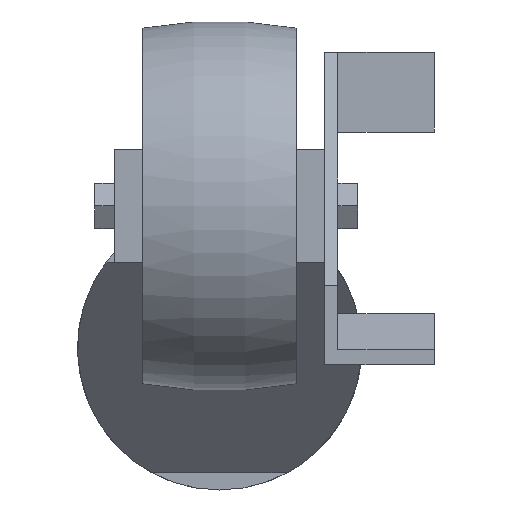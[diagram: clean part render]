
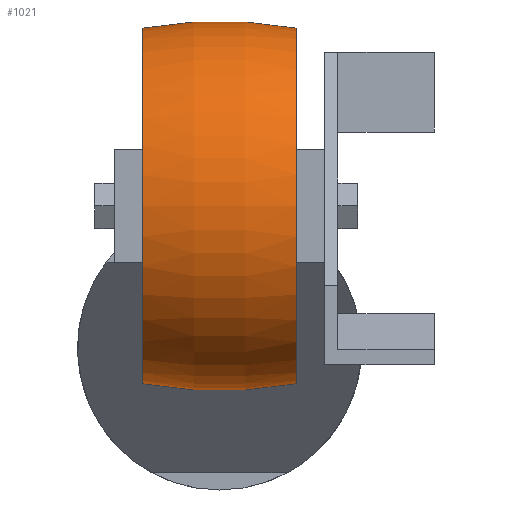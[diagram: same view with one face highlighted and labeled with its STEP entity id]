
A CAD part, front view. The second image highlights one B-rep face of the part: STEP entity #1021.
In plain terms, the highlighted toroidal (fillet/blend) face has major radius 42.5 mm and minor radius 75 mm.
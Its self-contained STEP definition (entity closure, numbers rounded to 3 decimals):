
#1 = DIRECTION ( 'NONE',  ( 0., 0., 1. ) ) ;
#14 = VERTEX_POINT ( 'NONE', #638 ) ;
#26 = AXIS2_PLACEMENT_3D ( 'NONE', #1555, #887, #1153 ) ;
#44 = CARTESIAN_POINT ( 'NONE',  ( 13.5, -58.5, 25. ) ) ;
#168 = AXIS2_PLACEMENT_3D ( 'NONE', #239, #1017, #767 ) ;
#206 = EDGE_CURVE ( 'NONE', #14, #496, #1222, .T. ) ;
#239 = CARTESIAN_POINT ( 'NONE',  ( 0., -58.5, 67.5 ) ) ;
#299 = EDGE_CURVE ( 'NONE', #930, #1585, #1676, .T. ) ;
#301 = DIRECTION ( 'NONE',  ( -1., 0., 0. ) ) ;
#332 = CARTESIAN_POINT ( 'NONE',  ( 13.5, -58.5, -6.275 ) ) ;
#369 = EDGE_CURVE ( 'NONE', #930, #14, #787, .T. ) ;
#371 = AXIS2_PLACEMENT_3D ( 'NONE', #44, #301, #1 ) ;
#399 = CIRCLE ( 'NONE', #724, 31.275 ) ;
#441 = ORIENTED_EDGE ( 'NONE', *, *, #369, .T. ) ;
#480 = DIRECTION ( 'NONE',  ( 0., -1., 0. ) ) ;
#496 = VERTEX_POINT ( 'NONE', #1636 ) ;
#560 = CARTESIAN_POINT ( 'NONE',  ( -13.5, -58.5, 25. ) ) ;
#638 = CARTESIAN_POINT ( 'NONE',  ( 13.5, -58.5, 56.275 ) ) ;
#652 = CARTESIAN_POINT ( 'NONE',  ( -13.5, -58.5, -6.275 ) ) ;
#724 = AXIS2_PLACEMENT_3D ( 'NONE', #560, #1495, #1586 ) ;
#727 = AXIS2_PLACEMENT_3D ( 'NONE', #1151, #480, #1561 ) ;
#767 = DIRECTION ( 'NONE',  ( 0., 0., 1. ) ) ;
#787 = CIRCLE ( 'NONE', #371, 31.275 ) ;
#887 = DIRECTION ( 'NONE',  ( -1., 0., 0. ) ) ;
#891 = TOROIDAL_SURFACE ( 'NONE', #26, -42.5, 75. ) ;
#930 = VERTEX_POINT ( 'NONE', #332 ) ;
#1015 = ORIENTED_EDGE ( 'NONE', *, *, #1625, .F. ) ;
#1017 = DIRECTION ( 'NONE',  ( 0., 1., 0. ) ) ;
#1021 = ADVANCED_FACE ( 'NONE', ( #1027 ), #891, .T. ) ;
#1027 = FACE_OUTER_BOUND ( 'NONE', #1531, .T. ) ;
#1055 = ORIENTED_EDGE ( 'NONE', *, *, #206, .T. ) ;
#1063 = ORIENTED_EDGE ( 'NONE', *, *, #299, .F. ) ;
#1151 = CARTESIAN_POINT ( 'NONE',  ( 0., -58.5, -17.5 ) ) ;
#1153 = DIRECTION ( 'NONE',  ( 0., 0., 1. ) ) ;
#1222 = CIRCLE ( 'NONE', #727, 75. ) ;
#1495 = DIRECTION ( 'NONE',  ( -1., 0., 0. ) ) ;
#1531 = EDGE_LOOP ( 'NONE', ( #1063, #441, #1055, #1015 ) ) ;
#1555 = CARTESIAN_POINT ( 'NONE',  ( 0., -58.5, 25. ) ) ;
#1561 = DIRECTION ( 'NONE',  ( 0., 0., -1. ) ) ;
#1585 = VERTEX_POINT ( 'NONE', #652 ) ;
#1586 = DIRECTION ( 'NONE',  ( 0., 0., 1. ) ) ;
#1625 = EDGE_CURVE ( 'NONE', #1585, #496, #399, .T. ) ;
#1636 = CARTESIAN_POINT ( 'NONE',  ( -13.5, -58.5, 56.275 ) ) ;
#1676 = CIRCLE ( 'NONE', #168, 75. ) ;
